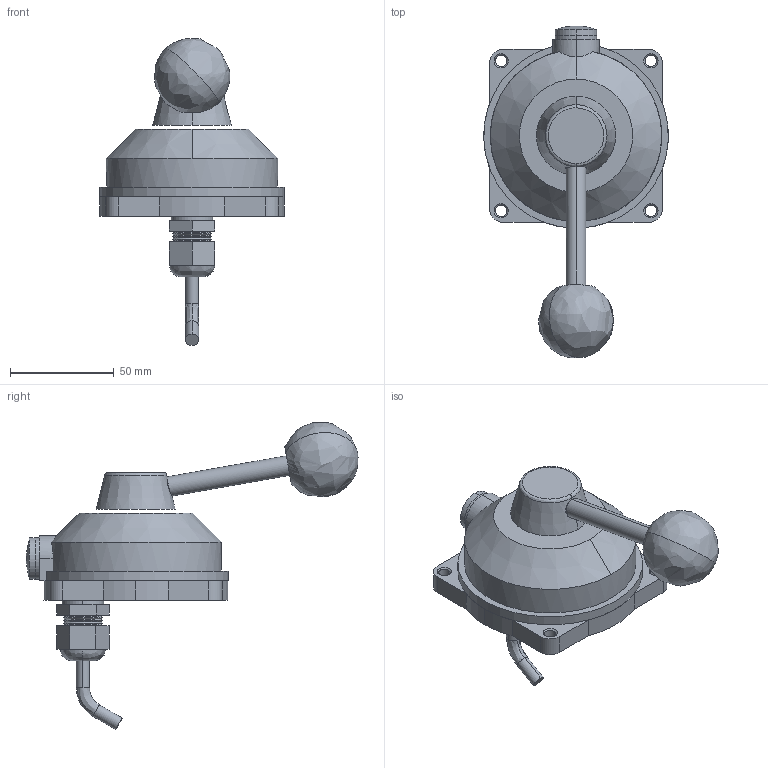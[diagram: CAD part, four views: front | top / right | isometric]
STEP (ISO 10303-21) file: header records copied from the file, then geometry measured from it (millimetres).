
FILE_DESCRIPTION (( 'STEP AP214' ), '1' );
FILE_NAME ('7170-C21.STEP', '2019-02-04T22:56:10', ( '' ), ( '' ), 'SwSTEP 2.0', 'SolidWorks 2017', '' );
FILE_SCHEMA (( 'AUTOMOTIVE_DESIGN' ));
Length unit declared in the file: inch
Products named in the file (1): 7170-C21
Bounding box: 88.86 x 159.83 x 147.75 mm (x, y, z)
Surface area: 42856.1 mm2 (no closed solid volume)
Topology: 0 solids, 14 shells, 297 faces, 850 edges, 563 vertices
Faces by surface type: plane 107, cylinder 87, bspline 53, cone 50
Entity records: 20433 total; most frequent: CARTESIAN_POINT 9407, ORIENTED_EDGE 1466, DIRECTION 1354, EDGE_CURVE 846, VERTEX_POINT 563, AXIS2_PLACEMENT_3D 485, LINE 384, VECTOR 384
